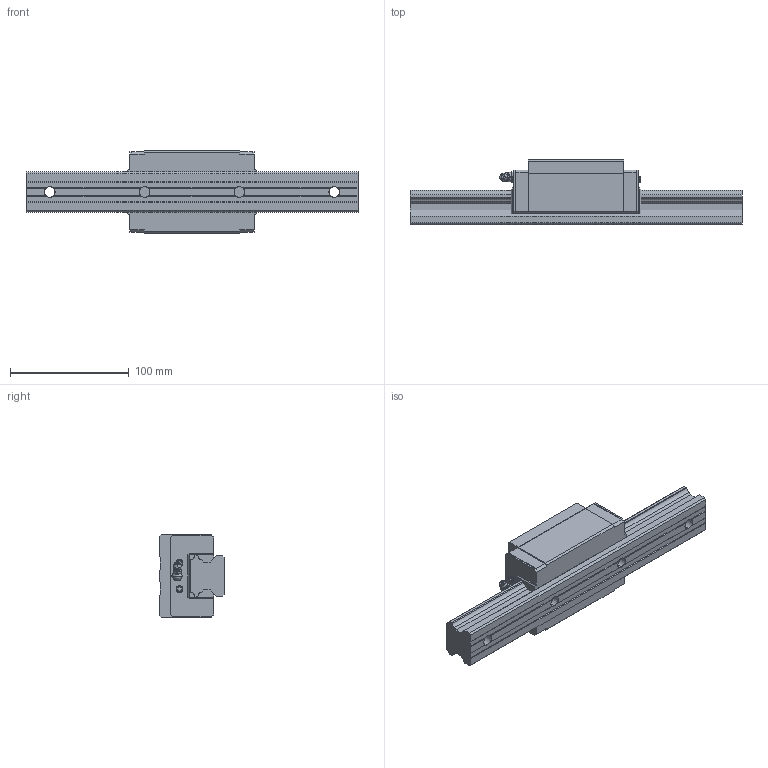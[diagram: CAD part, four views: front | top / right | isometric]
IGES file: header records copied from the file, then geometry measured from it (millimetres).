
Start section: SolidWorks IGES file using analytic representation for surfaces
Global section: file name: D:\Qsync\EOS Design B.V\Projecten\LM Systems\Models HSV\FINISHED\HSV35RSS.IGS; native system: SolidWorks 2016; preprocessor: SolidWorks 2016; author: EOS; date: 160314.144817; units: millimetre
Bounding box: 280 x 55 x 70 mm (x, y, z)
Surface area: 78236.2 mm2 (no closed solid volume)
Topology: 0 solids, 0 shells, 295 faces, 2950 edges, 2934 vertices
Faces by surface type: bspline 211, revolution 84
